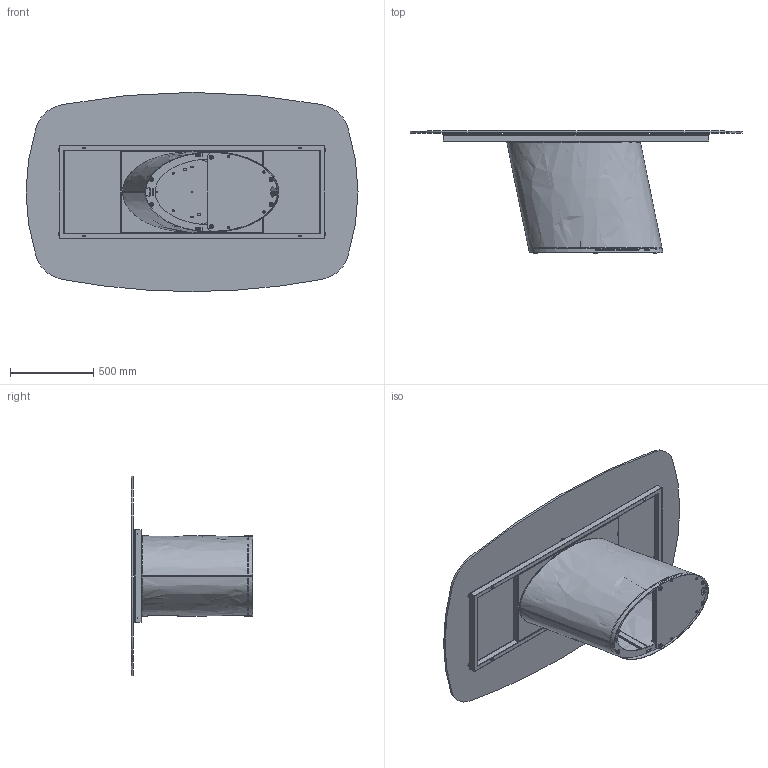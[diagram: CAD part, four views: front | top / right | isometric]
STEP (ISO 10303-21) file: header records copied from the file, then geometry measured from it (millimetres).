
FILE_DESCRIPTION (( 'STEP AP203' ), '1' );
FILE_NAME ('DO41M.STEP', '2024-08-06T13:13:55', ( '' ), ( '' ), 'SwSTEP 2.0', 'SolidWorks 2022', '' );
FILE_SCHEMA (( 'CONFIG_CONTROL_DESIGN' ));
Length unit declared in the file: millimetre
Products named in the file (22): TTAV01_02-05-VASSOIO IRRIGIDIMENTO TELAIO UNIVERSALE; COLLO TELAIO UNIVERSALE TTAV01 CON FERRAMENTA_MTG TOP CRISTALLO VERNICIATO-CERAMICA; M8xXXmm_M8x20mm; nut_M8_M8; rondella M8_8X24; C4XCRXX-00-Piani Sagomati in Cristallo_2000x1200; DOB000000_05-00-Zavorra intenra del dorado_Default<A macchina>; TTAV01-05-TELAIO UNIVERSALE X TAVOLI 180 240cm; DOB000000_03-00-Piastra  inferiore_Default<A macchina>; piedino dorado; DOB000000_02-00-barra rettangoalre di supporto_Default<A macchina>; DOB000000_01-00-piastra superiore _Default<A macchina>; DOB000000-00-DORADO BASE GREZZO; DOB000000_08-00-Zavorra inferiore_Default<A macchina>; M8xXXmm_M8X30mm; DOB000000_07-00-lamiera guscio sx_Default<A macchina>; DO41M; DOB000000_06-00-Lamiera guscio dx_Default<A macchina>; TTAV01_01-05-TELAIO UNIVERSALE X TAVOLI 180 240cm; barra filettata H.72cm_barra; DOB000000_04-00-contrapesso filettato_Default<A macchina>; 434070-00-PIEDINO TPV GOMMA NERO D. 30x8max18_filo estetico
Assembly tree (48 placements, depth 4):
  DO41M
    DOB000000-00-DORADO BASE GREZZO
      DOB000000_08-00-Zavorra inferiore_Default<A macchina>
      DOB000000_04-00-contrapesso filettato_Default<A macchina>
      DOB000000_05-00-Zavorra intenra del dorado_Default<A macchina>  x4
      DOB000000_01-00-piastra superiore _Default<A macchina>
      DOB000000_07-00-lamiera guscio sx_Default<A macchina>
      DOB000000_02-00-barra rettangoalre di supporto_Default<A macchina>  x4
      DOB000000_03-00-Piastra  inferiore_Default<A macchina>
      DOB000000_06-00-Lamiera guscio dx_Default<A macchina>
      M8xXXmm_M8X30mm  x4
      nut_M8_M8  x2
      piedino dorado  x6
      barra filettata H.72cm_barra  x2
    COLLO TELAIO UNIVERSALE TTAV01 CON FERRAMENTA_MTG TOP CRISTALLO VERNICIATO-CERAMICA
      TTAV01-05-TELAIO UNIVERSALE X TAVOLI 180 240cm
        TTAV01_02-05-VASSOIO IRRIGIDIMENTO TELAIO UNIVERSALE
        TTAV01_01-05-TELAIO UNIVERSALE X TAVOLI 180 240cm
      434070-00-PIEDINO TPV GOMMA NERO D. 30x8max18_filo estetico  x6
    rondella M8_8X24  x4
    M8xXXmm_M8x20mm  x4
    C4XCRXX-00-Piani Sagomati in Cristallo_2000x1200
Bounding box: 2000 x 734 x 1200 mm (x, y, z)
Volume: 38179221.8 mm3; surface area: 11666828.3 mm2
Topology: 57 solids, 57 shells, 1293 faces, 3079 edges, 1910 vertices
Faces by surface type: cylinder 507, plane 468, torus 148, cone 136, bspline 26, sphere 8
Entity records: 28209 total; most frequent: CARTESIAN_POINT 8070, DIRECTION 3717, ORIENTED_EDGE 3438, EDGE_CURVE 1719, AXIS2_PLACEMENT_3D 1399, VERTEX_POINT 1100, LINE 919, VECTOR 919
